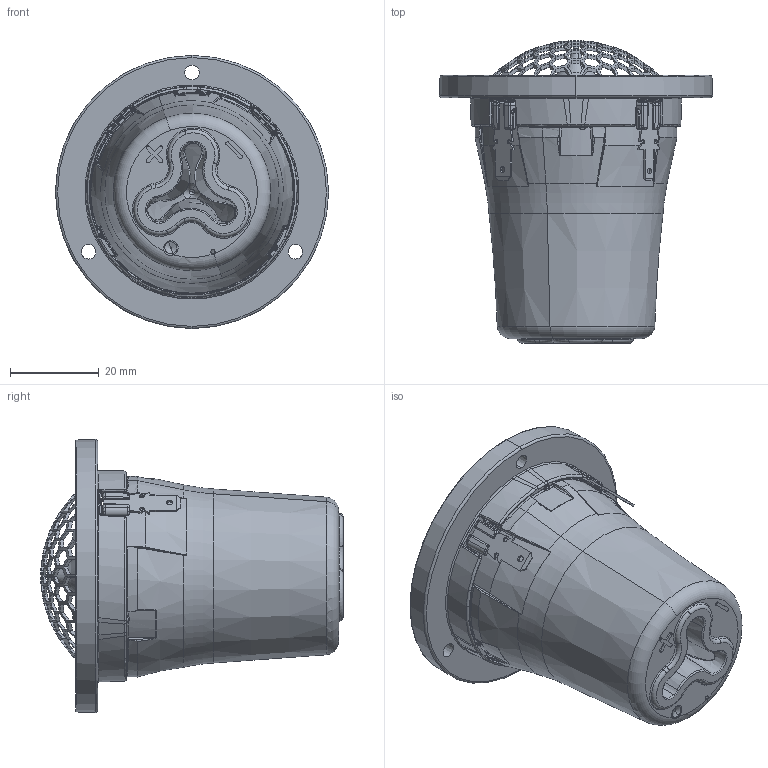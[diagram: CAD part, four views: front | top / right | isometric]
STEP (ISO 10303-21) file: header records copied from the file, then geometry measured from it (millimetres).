
FILE_DESCRIPTION (( 'STEP AP214' ), '1' );
FILE_NAME ('R3004-602010.STEP', '2020-12-17T10:55:57', ( '' ), ( '' ), 'SwSTEP 2.0', 'SolidWorks 2019', '' );
FILE_SCHEMA (( 'AUTOMOTIVE_DESIGN' ));
Length unit declared in the file: millimetre
Products named in the file (1): R3004-602010
Bounding box: 61.66 x 68.18 x 61.66 mm (x, y, z)
Surface area: 19453.7 mm2 (no closed solid volume)
Topology: 0 solids, 15 shells, 1170 faces, 3728 edges, 2485 vertices
Faces by surface type: plane 661, cylinder 155, torus 136, bspline 132, cone 68, sphere 18
Entity records: 58818 total; most frequent: CARTESIAN_POINT 13366, DIRECTION 7186, ORIENTED_EDGE 6560, EDGE_CURVE 3712, AXIS2_PLACEMENT_3D 3066, VERTEX_POINT 2485, CIRCLE 2027, EDGE_LOOP 1324
